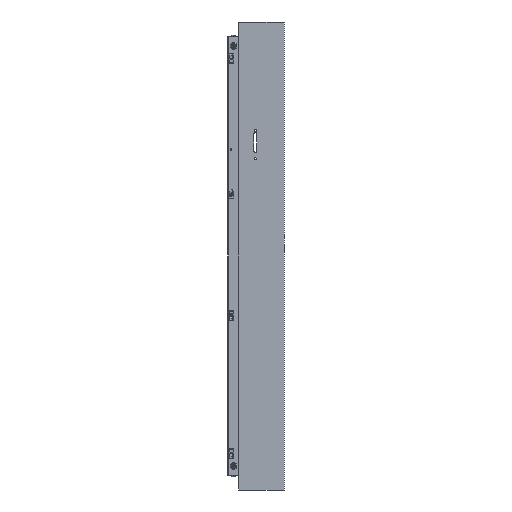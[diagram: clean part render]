
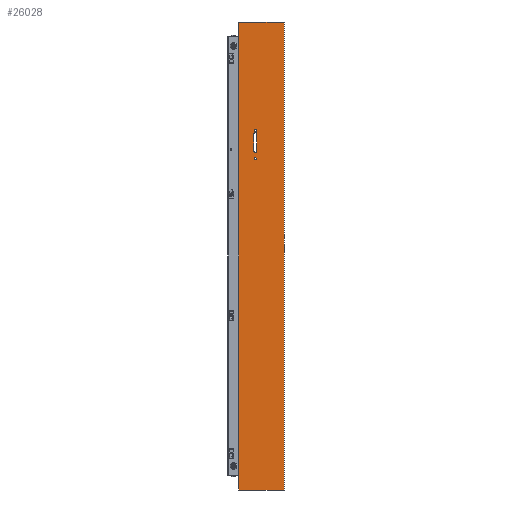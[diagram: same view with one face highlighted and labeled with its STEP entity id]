
A CAD part, front view. The second image highlights one B-rep face of the part: STEP entity #26028.
In plain terms, the highlighted planar face has unit normal (0, -1, 0).
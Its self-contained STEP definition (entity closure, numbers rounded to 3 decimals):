
#5358=DIRECTION('',(0.,0.,1.));
#5359=VECTOR('',#5358,1982.016);
#5360=CARTESIAN_POINT('',(-96.673,-1.992,
-991.009));
#5361=LINE('',#5360,#5359);
#5500=CARTESIAN_POINT('',(-25.164,-1.992,
412.511));
#5501=DIRECTION('',(0.,1.,0.));
#5502=DIRECTION('',(0.,0.,1.));
#5503=AXIS2_PLACEMENT_3D('',#5500,#5501,#5502);
#5505=CARTESIAN_POINT('',(-25.164,-1.992,
412.511));
#5506=DIRECTION('',(0.,1.,0.));
#5507=DIRECTION('',(0.,0.,-1.));
#5508=AXIS2_PLACEMENT_3D('',#5505,#5506,#5507);
#5510=CARTESIAN_POINT('',(-25.164,-1.992,
531.467));
#5511=DIRECTION('',(0.,1.,0.));
#5512=DIRECTION('',(0.,0.,1.));
#5513=AXIS2_PLACEMENT_3D('',#5510,#5511,#5512);
#5515=CARTESIAN_POINT('',(-25.164,-1.992,
531.467));
#5516=DIRECTION('',(0.,1.,0.));
#5517=DIRECTION('',(0.,0.,-1.));
#5518=AXIS2_PLACEMENT_3D('',#5515,#5516,#5517);
#5520=CARTESIAN_POINT('',(-25.164,-1.992,
517.181));
#5521=DIRECTION('',(0.,1.,0.));
#5522=DIRECTION('',(-1.,0.,0.));
#5523=AXIS2_PLACEMENT_3D('',#5520,#5521,#5522);
#5525=DIRECTION('',(0.,0.,1.));
#5526=VECTOR('',#5525,72.952);
#5527=CARTESIAN_POINT('',(-31.508,-1.992,
444.229));
#5528=LINE('',#5527,#5526);
#5529=CARTESIAN_POINT('',(-25.164,-1.992,
444.229));
#5530=DIRECTION('',(0.,1.,0.));
#5531=DIRECTION('',(0.,0.,-1.));
#5532=AXIS2_PLACEMENT_3D('',#5529,#5530,#5531);
#5534=CARTESIAN_POINT('',(-25.164,-1.992,
444.229));
#5535=DIRECTION('',(0.,1.,0.));
#5536=DIRECTION('',(1.,0.,0.));
#5537=AXIS2_PLACEMENT_3D('',#5534,#5535,#5536);
#5539=DIRECTION('',(0.,0.,-1.));
#5540=VECTOR('',#5539,72.952);
#5541=CARTESIAN_POINT('',(-18.821,-1.992,
517.181));
#5542=LINE('',#5541,#5540);
#5543=CARTESIAN_POINT('',(-25.164,-1.992,
517.181));
#5544=DIRECTION('',(0.,1.,0.));
#5545=DIRECTION('',(0.,0.,1.));
#5546=AXIS2_PLACEMENT_3D('',#5543,#5544,#5545);
#5548=DIRECTION('',(-1.,0.,0.));
#5549=VECTOR('',#5548,193.307);
#5550=CARTESIAN_POINT('',(96.634,-1.992,991.007));
#5551=LINE('',#5550,#5549);
#5552=DIRECTION('',(1.,0.,0.));
#5553=VECTOR('',#5552,193.307);
#5554=CARTESIAN_POINT('',(-96.673,-1.992,
-991.009));
#5555=LINE('',#5554,#5553);
#6367=DIRECTION('',(0.,0.,-1.));
#6368=VECTOR('',#6367,1982.016);
#6369=CARTESIAN_POINT('',(96.634,-1.992,991.007));
#6370=LINE('',#6369,#6368);
#14775=CARTESIAN_POINT('',(-31.508,-1.992,
517.181));
#14776=VERTEX_POINT('',#14775);
#14777=CARTESIAN_POINT('',(-31.508,-1.992,
444.229));
#14778=VERTEX_POINT('',#14777);
#14783=CARTESIAN_POINT('',(-25.164,-1.992,
437.886));
#14784=VERTEX_POINT('',#14783);
#14785=CARTESIAN_POINT('',(-18.821,-1.992,
444.229));
#14786=VERTEX_POINT('',#14785);
#14789=CARTESIAN_POINT('',(-18.821,-1.992,
517.181));
#14790=VERTEX_POINT('',#14789);
#14791=CARTESIAN_POINT('',(-25.164,-1.992,
523.525));
#14792=VERTEX_POINT('',#14791);
#14797=CARTESIAN_POINT('',(96.634,-1.992,
991.007));
#14798=VERTEX_POINT('',#14797);
#14799=CARTESIAN_POINT('',(96.634,-1.992,
-991.009));
#14800=VERTEX_POINT('',#14799);
#15024=CARTESIAN_POINT('',(-96.673,-1.992,
991.007));
#15025=VERTEX_POINT('',#15024);
#15026=CARTESIAN_POINT('',(-96.673,-1.992,
-991.009));
#15027=VERTEX_POINT('',#15026);
#16094=CARTESIAN_POINT('',(-25.164,-1.992,
527.902));
#16096=VERTEX_POINT('',#16094);
#16098=CARTESIAN_POINT('',(-25.164,-1.992,
535.032));
#16100=VERTEX_POINT('',#16098);
#16102=CARTESIAN_POINT('',(-25.164,-1.992,
408.946));
#16104=VERTEX_POINT('',#16102);
#16106=CARTESIAN_POINT('',(-25.164,-1.992,
416.076));
#16108=VERTEX_POINT('',#16106);
#25989=CARTESIAN_POINT('',(-0.02,-1.992,
-0.001));
#25990=DIRECTION('',(0.,1.,0.));
#25991=DIRECTION('',(0.,0.,1.));
#25992=AXIS2_PLACEMENT_3D('',#25989,#25990,#25991);
#25993=PLANE('',#25992);
#25994=ORIENTED_EDGE('',*,*,#25757,.T.);
#25996=ORIENTED_EDGE('',*,*,#25995,.F.);
#25998=ORIENTED_EDGE('',*,*,#25997,.T.);
#25999=ORIENTED_EDGE('',*,*,#25975,.F.);
#26000=EDGE_LOOP('',(#25994,#25996,#25998,#25999));
#26001=FACE_OUTER_BOUND('',#26000,.F.);
#26003=ORIENTED_EDGE('',*,*,#26002,.F.);
#26005=ORIENTED_EDGE('',*,*,#26004,.F.);
#26006=EDGE_LOOP('',(#26003,#26005));
#26007=FACE_BOUND('',#26006,.F.);
#26009=ORIENTED_EDGE('',*,*,#26008,.F.);
#26011=ORIENTED_EDGE('',*,*,#26010,.F.);
#26013=ORIENTED_EDGE('',*,*,#26012,.F.);
#26015=ORIENTED_EDGE('',*,*,#26014,.F.);
#26017=ORIENTED_EDGE('',*,*,#26016,.F.);
#26019=ORIENTED_EDGE('',*,*,#26018,.F.);
#26020=EDGE_LOOP('',(#26009,#26011,#26013,#26015,#26017,#26019));
#26021=FACE_BOUND('',#26020,.F.);
#26023=ORIENTED_EDGE('',*,*,#26022,.F.);
#26025=ORIENTED_EDGE('',*,*,#26024,.F.);
#26026=EDGE_LOOP('',(#26023,#26025));
#26027=FACE_BOUND('',#26026,.F.);
#5504=CIRCLE('',#5503,3.565);
#5509=CIRCLE('',#5508,3.565);
#5514=CIRCLE('',#5513,3.565);
#5519=CIRCLE('',#5518,3.565);
#5524=CIRCLE('',#5523,6.344);
#5533=CIRCLE('',#5532,6.344);
#5538=CIRCLE('',#5537,6.344);
#5547=CIRCLE('',#5546,6.344);
#25757=EDGE_CURVE('',#15027,#15025,#5361,.T.);
#25975=EDGE_CURVE('',#15027,#14800,#5555,.T.);
#25995=EDGE_CURVE('',#14798,#15025,#5551,.T.);
#25997=EDGE_CURVE('',#14798,#14800,#6370,.T.);
#26002=EDGE_CURVE('',#16100,#16096,#5514,.T.);
#26004=EDGE_CURVE('',#16096,#16100,#5519,.T.);
#26008=EDGE_CURVE('',#14776,#14792,#5524,.T.);
#26010=EDGE_CURVE('',#14778,#14776,#5528,.T.);
#26012=EDGE_CURVE('',#14784,#14778,#5533,.T.);
#26014=EDGE_CURVE('',#14786,#14784,#5538,.T.);
#26016=EDGE_CURVE('',#14790,#14786,#5542,.T.);
#26018=EDGE_CURVE('',#14792,#14790,#5547,.T.);
#26022=EDGE_CURVE('',#16108,#16104,#5504,.T.);
#26024=EDGE_CURVE('',#16104,#16108,#5509,.T.);
#26028=ADVANCED_FACE('',(#26001,#26007,#26021,#26027),#25993,.F.);
